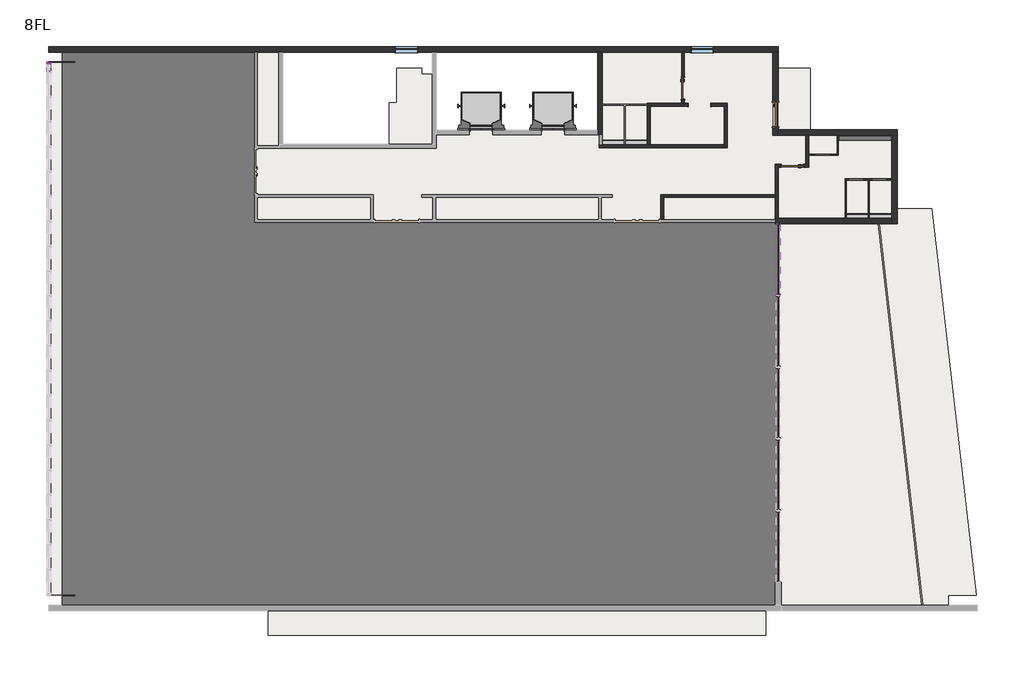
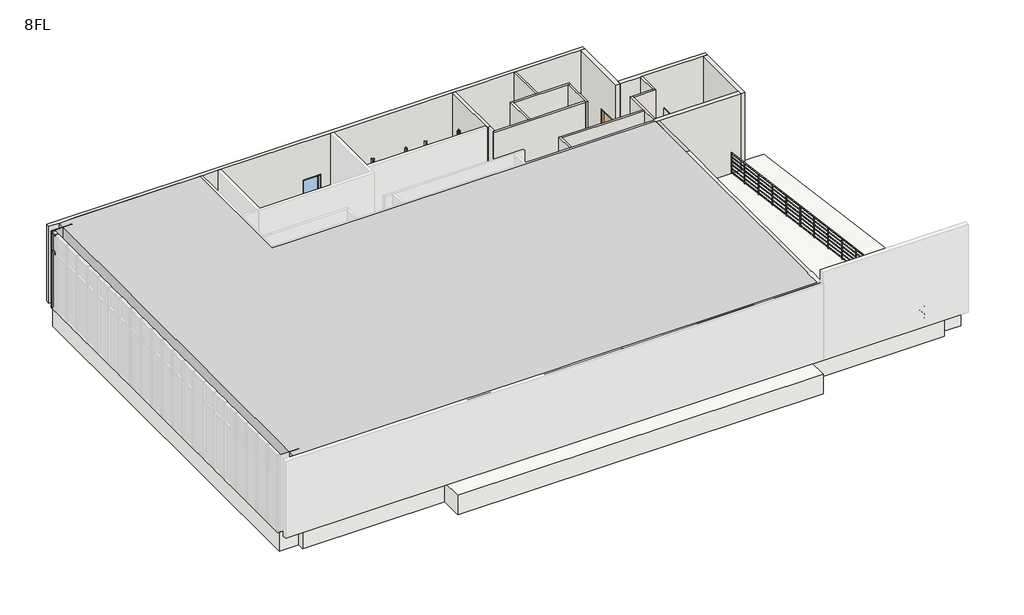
# One storey, part 3 of 3: 21 walls, 9 proxies, 6 members, 4 doors, 4 flow terminals, 3 plates, 2 slabs, 2 windows, 1 railing.
"""IFC4 building model written with IfcOpenShell, lengths in millimetres."""

from ifc_helpers import new_model, si_unit, frame, origin, place, context, project, spatial, polyline, outline, extrude, faceted_brep, transform, mapped, element, save
from components import specialty_equipment_d755c605, d150_h1500_9903e80e, w550_h2000_5054dc5e, w600_h2000_381ad4ff, w800h2000_3f366617, w800h2000_fc627520, w800h2000_d76b1b72, w900h2000_8d150256, flow_terminal_205c4ddb, flow_terminal_b8fa7ae2, member_25x150_64c6ad17, member_25x150_5b56dd58, member_70x150_1b280ac3, member_70x150_76429c73, member_70x150_a15bb337, member_70x150_da24903b, plate_d1366ea1, plate_ab860a3c, plate_c3b39e59, railing_579f45c8, w800_h1100_2b598eca

model = new_model("IFC4")

# Units and contexts
model_context = context("Model", 3, world=origin())
ifc_project = project(units=[si_unit("LENGTHUNIT", "METRE", prefix="MILLI")], contexts=[model_context])

# Site, building, storey
site = spatial("IfcSite", under=ifc_project)
building = spatial("IfcBuilding", under=site)
storey = spatial("IfcBuildingStorey", under=building, Name="8FL", Elevation=28600.0)

# Proxies
placement = place(None, origin())
element("IfcBuildingElementProxy", 1, Name="i_事務所1 : i_事務所1", ObjectType="i_事務所1 : i_事務所1", at=placement, inside=storey, context=model_context, shape_type="SweptSolid", body=[
    extrude(outline(polyline([(-21845.9784025, 16649.6868987), (-21845.9784025, 10449.6868987), (-2945.9784025, 10449.6868987), (-2945.9784025, -3550.3131013), (-28845.9784025, -3550.3131013), (-28845.9784025, 16649.6868987), (-21845.9784025, 16649.6868987)])), frame((0.0, 0.0, 28600.0), z_axis=(0.0, 0.0, 1.0), x_axis=(1.0, 0.0, 0.0)), (0.0, 0.0, 1.0), 4000.0),
])
specialty_equipment_shape = specialty_equipment_d755c605(model_context)
element("IfcBuildingElementProxy", 2, Name="エレベーター : 9人乗", ObjectType="エレベーター : 9人乗", at=placement, inside=storey, context=model_context, shape_type="MappedRepresentation", body=[
    mapped(specialty_equipment_shape, transform((-11220.9784025, 13649.6868987, 28600.0), x_axis=(1.0, 0.0, 0.0), y_axis=(0.0, 1.0, 0.0), z_axis=(0.0, 0.0, 1.0))),
])
element("IfcBuildingElementProxy", 3, Name="エレベーター : 9人乗", ObjectType="エレベーター : 9人乗", at=placement, inside=storey, context=model_context, shape_type="MappedRepresentation", body=[
    mapped(specialty_equipment_shape, transform((-13820.9784025, 13649.6868987, 28600.0), x_axis=(1.0, 0.0, 0.0), y_axis=(0.0, 1.0, 0.0), z_axis=(0.0, 0.0, 1.0))),
])
d150_h1500_shape = d150_h1500_9903e80e(model_context)
element("IfcBuildingElementProxy", 4, Name="r ライニング : D150 H1500", ObjectType="r ライニング : D150 H1500", at=placement, inside=storey, context=model_context, shape_type="MappedRepresentation", body=[
    mapped(d150_h1500_shape, transform((-736.1600971, 13521.6596024, 28600.0), x_axis=(1.0, 0.0, 0.0), y_axis=(0.0, 1.0, 0.0), z_axis=(0.0, 0.0, 1.0))),
])
w550_h2000_shape = w550_h2000_5054dc5e(model_context)
element("IfcBuildingElementProxy", 5, Name="r トイレブース扉 : W550 H2000", ObjectType="r トイレブース扉 : W550 H2000", at=placement, inside=storey, context=model_context, shape_type="MappedRepresentation", body=[
    mapped(w550_h2000_shape, transform((-8823.4784025, 14649.6868987, 28600.0), x_axis=(-1.0, 0.0, 0.0), y_axis=(0.0, -1.0, 0.0), z_axis=(0.0, 0.0, 1.0))),
])
element("IfcBuildingElementProxy", 6, Name="r トイレブース扉 : W550 H2000", ObjectType="r トイレブース扉 : W550 H2000", at=placement, inside=storey, context=model_context, shape_type="MappedRepresentation", body=[
    mapped(w550_h2000_shape, transform((-7940.9784025, 14649.6868987, 28600.0), x_axis=(-1.0, 0.0, 0.0), y_axis=(0.0, -1.0, 0.0), z_axis=(0.0, 0.0, 1.0))),
])
element("IfcBuildingElementProxy", 7, Name="r トイレブース扉 : W550 H2000", ObjectType="r トイレブース扉 : W550 H2000", at=placement, inside=storey, context=model_context, shape_type="MappedRepresentation", body=[
    mapped(w550_h2000_shape, transform((-5.9784025, 11949.6868987, 28600.0), x_axis=(-1.0, 0.0, 0.0), y_axis=(0.0, -1.0, 0.0), z_axis=(0.0, 0.0, 1.0))),
])
element("IfcBuildingElementProxy", 8, Name="r トイレブース扉 : W550 H2000", ObjectType="r トイレブース扉 : W550 H2000", at=placement, inside=storey, context=model_context, shape_type="MappedRepresentation", body=[
    mapped(w550_h2000_shape, transform((834.0215975, 11949.6868987, 28600.0), x_axis=(-1.0, 0.0, 0.0), y_axis=(0.0, -1.0, 0.0), z_axis=(0.0, 0.0, 1.0))),
])
w600_h2000_shape = w600_h2000_381ad4ff(model_context)
element("IfcBuildingElementProxy", 9, Name="r トイレブース扉 : W600 H2000", ObjectType="r トイレブース扉 : W600 H2000", at=placement, inside=storey, context=model_context, shape_type="MappedRepresentation", body=[
    mapped(w600_h2000_shape, transform((-1220.9784025, 12849.6868987, 28600.0), x_axis=(-1.0, 0.0, 0.0), y_axis=(0.0, -1.0, 0.0), z_axis=(0.0, 0.0, 1.0))),
])

# Doors
w800h2000_shape = w800h2000_3f366617(model_context)
element("IfcDoor", 10, ObjectType="片開き戸 : w800h2000", at=placement, inside=storey, context=model_context, shape_type="MappedRepresentation", body=[
    mapped(w800h2000_shape, transform((-2445.9784025, 12449.6868987, 28600.0), x_axis=(-1.0, 0.0, 0.0), y_axis=(0.0, -1.0, 0.0), z_axis=(0.0, 0.0, 1.0))),
])
w800h2000_2_shape = w800h2000_fc627520(model_context)
element("IfcDoor", 11, ObjectType="片開き戸 : w800h2000", at=placement, inside=storey, context=model_context, shape_type="MappedRepresentation", body=[
    mapped(w800h2000_2_shape, transform((-6395.9784025, 15249.6868987, 28600.0), x_axis=(0.0, -1.0, 0.0), y_axis=(1.0, 0.0, 0.0), z_axis=(0.0, 0.0, 1.0))),
])
w800h2000_3_shape = w800h2000_d76b1b72(model_context)
element("IfcDoor", 12, ObjectType="開口枠あり : w800h2000", at=placement, inside=storey, context=model_context, shape_type="MappedRepresentation", body=[
    mapped(w800h2000_3_shape, transform((-5795.9784025, 14649.6868987, 28600.0), x_axis=(-1.0, 0.0, 0.0), y_axis=(0.0, -1.0, 0.0), z_axis=(0.0, 0.0, 1.0))),
])
w900h2000_shape = w900h2000_8d150256(model_context)
element("IfcDoor", 13, ObjectType="片開き戸 : w900h2000", at=placement, inside=storey, context=model_context, shape_type="MappedRepresentation", body=[
    mapped(w900h2000_shape, transform((-3045.9784025, 14299.6868987, 28600.0), x_axis=(0.0, -1.0, 0.0), y_axis=(1.0, 0.0, 0.0), z_axis=(0.0, 0.0, 1.0))),
])

# Flow terminals
flow_terminal_shape = flow_terminal_205c4ddb(model_context)
element("IfcFlowTerminal", 14, ObjectType="洋式便器 - ライニング付 - 2D : タイプ 1", at=placement, inside=storey, context=model_context, shape_type="MappedRepresentation", body=[
    mapped(flow_terminal_shape, transform((-9045.9784025, 13149.6868987, 28600.0), x_axis=(1.0, 0.0, 0.0), y_axis=(0.0, 1.0, 0.0), z_axis=(0.0, 0.0, 1.0))),
])
element("IfcFlowTerminal", 15, ObjectType="洋式便器 - ライニング付 - 2D : タイプ 1", at=placement, inside=storey, context=model_context, shape_type="MappedRepresentation", body=[
    mapped(flow_terminal_shape, transform((-8205.9784025, 13149.6868987, 28600.0), x_axis=(1.0, 0.0, 0.0), y_axis=(0.0, 1.0, 0.0), z_axis=(0.0, 0.0, 1.0))),
])
flow_terminal_2_shape = flow_terminal_b8fa7ae2(model_context)
element("IfcFlowTerminal", 16, ObjectType="洋式便器 - ライニング付 - 2D : タイプ 1", at=placement, inside=storey, context=model_context, shape_type="MappedRepresentation", body=[
    mapped(flow_terminal_2_shape, transform((-210.9784025, 10449.6868987, 28600.0), x_axis=(1.0, 0.0, 0.0), y_axis=(0.0, 1.0, 0.0), z_axis=(0.0, 0.0, 1.0))),
])
element("IfcFlowTerminal", 17, ObjectType="洋式便器 - ライニング付 - 2D : タイプ 1", at=placement, inside=storey, context=model_context, shape_type="MappedRepresentation", body=[
    mapped(flow_terminal_2_shape, transform((629.0215975, 10449.6868987, 28600.0), x_axis=(1.0, 0.0, 0.0), y_axis=(0.0, 1.0, 0.0), z_axis=(0.0, 0.0, 1.0))),
])

# Members
member_25x150_shape = member_25x150_64c6ad17(model_context)
element("IfcMember", 18, ObjectType="長方形のマリオン : 25x150", at=placement, inside=storey, context=model_context, shape_type="MappedRepresentation", body=[
    mapped(member_25x150_shape, transform((-2945.9784025, 10349.6868987, 28600.0), x_axis=(0.0, 1.0, 0.0), y_axis=(1.0, 0.0, 0.0), z_axis=(0.0, 0.0, -1.0))),
])
member_25x150_2_shape = member_25x150_5b56dd58(model_context)
element("IfcMember", 19, ObjectType="長方形のマリオン : 25x150", at=placement, inside=storey, context=model_context, shape_type="MappedRepresentation", body=[
    mapped(member_25x150_2_shape, transform((-2945.9784025, 10349.6868987, 32600.0), x_axis=(0.0, 0.0, 1.0), y_axis=(1.0, 0.0, 0.0), z_axis=(0.0, 1.0, 0.0))),
])
member_70x150_shape = member_70x150_1b280ac3(model_context)
element("IfcMember", 20, ObjectType="長方形のマリオン : 70x150", at=placement, inside=storey, context=model_context, shape_type="MappedRepresentation", body=[
    mapped(member_70x150_shape, transform((-29345.9784025, 16199.6868987, 28600.0), x_axis=(0.0, 1.0, 0.0), y_axis=(1.0, 0.0, 0.0), z_axis=(0.0, 0.0, -1.0))),
])
member_70x150_2_shape = member_70x150_76429c73(model_context)
element("IfcMember", 21, ObjectType="長方形のマリオン : 70x150", at=placement, inside=storey, context=model_context, shape_type="MappedRepresentation", body=[
    mapped(member_70x150_2_shape, transform((-29345.9784025, 16199.6868987, 31600.0), x_axis=(0.0, 1.0, 0.0), y_axis=(1.0, 0.0, 0.0), z_axis=(0.0, 0.0, -1.0))),
])
member_70x150_3_shape = member_70x150_a15bb337(model_context)
element("IfcMember", 22, ObjectType="長方形のマリオン : 70x150", at=placement, inside=storey, context=model_context, shape_type="MappedRepresentation", body=[
    mapped(member_70x150_3_shape, transform((-29345.9784025, 16129.6868987, 32600.0), x_axis=(0.0, 0.0, 1.0), y_axis=(1.0, 0.0, 0.0), z_axis=(0.0, 1.0, 0.0))),
])
member_70x150_4_shape = member_70x150_da24903b(model_context)
element("IfcMember", 23, ObjectType="長方形のマリオン : 70x150", at=placement, inside=storey, context=model_context, shape_type="MappedRepresentation", body=[
    mapped(member_70x150_4_shape, transform((-29345.9784025, 16129.6868987, 31600.0), x_axis=(0.0, 0.0, 1.0), y_axis=(1.0, 0.0, 0.0), z_axis=(0.0, 1.0, 0.0))),
])

# Plates
plate_shape = plate_d1366ea1(model_context)
element("IfcPlate", 24, ObjectType="システム パネル : 標準", at=placement, inside=storey, context=model_context, shape_type="MappedRepresentation", body=[
    mapped(plate_shape, transform((-28895.9784025, 16199.6868987, 28600.0), x_axis=(1.0, 0.0, 0.0), y_axis=(0.0, 1.0, 0.0), z_axis=(0.0, 0.0, 1.0))),
])
plate_2_shape = plate_ab860a3c(model_context)
element("IfcPlate", 25, ObjectType="システム パネル : 標準", at=placement, inside=storey, context=model_context, shape_type="MappedRepresentation", body=[
    mapped(plate_2_shape, transform((-28420.9784025, 16199.6868987, 28600.0), x_axis=(1.0, 0.0, 0.0), y_axis=(0.0, 1.0, 0.0), z_axis=(0.0, 0.0, 1.0))),
])
plate_3_shape = plate_c3b39e59(model_context)
element("IfcPlate", 26, ObjectType="r パネル FIX 下框付 : 框 H100", at=placement, inside=storey, context=model_context, shape_type="MappedRepresentation", body=[
    mapped(plate_3_shape, transform((-2945.9784025, 9057.1868987, 28600.0), x_axis=(0.0, 1.0, 0.0), y_axis=(-1.0, 0.0, 0.0), z_axis=(0.0, 0.0, 1.0))),
])

# Railing
railing_shape = railing_579f45c8(model_context)
element("IfcRailing", 27, ObjectType="r パイプ H1100", at=placement, inside=storey, context=model_context, shape_type="MappedRepresentation", body=[
    mapped(railing_shape, transform((0.0, 0.0, 0.0), x_axis=(1.0, 0.0, 0.0), y_axis=(0.0, 1.0, 0.0), z_axis=(0.0, 0.0, 1.0))),
])

# Slabs
element("IfcSlab", 28, ObjectType="企画1000", at=placement, inside=storey, context=model_context, shape_type="SweptSolid", body=[
    extrude(outline(polyline([(-20870.9784025, 16549.6868987), (-20870.9784025, 13224.6868987), (-17020.9784025, 13224.6868987), (-17020.9784025, 14724.6868987), (-16745.9784025, 14724.6868987), (-16745.9784025, 15974.6868987), (-15845.9784025, 15974.6868987), (-15845.9784025, 15749.6868987), (-15470.9784025, 15749.6868987), (-15470.9784025, 13724.6868987), (-9470.9784025, 13724.6868987), (-9470.9784025, 16549.6868987), (-3145.9784025, 16549.6868987), (-3145.9784025, 13549.6868987), (1154.0215975, 13549.6868987), (1154.0215975, 10899.6868987), (2610.5310234, 10899.6868987), (4210.5310234, -3100.3131013), (3204.0215975, -3100.3131013), (3204.0215975, -3450.3131013), (-3395.9784025, -3450.3131013), (-3395.9784025, -4545.3131013), (-21395.9784025, -4545.3131013), (-21395.9784025, -3450.3131013), (-28395.9784025, -3450.3131013), (-28395.9784025, -3100.3131013), (-29345.9784025, -3100.3131013), (-29345.9784025, 16199.6868987), (-28395.9784025, 16199.6868987), (-28395.9784025, 16549.6868987), (-20870.9784025, 16549.6868987)])), frame((0.0, 0.0, 27600.0), z_axis=(0.0, 0.0, 1.0), x_axis=(1.0, 0.0, 0.0)), (0.0, 0.0, 1.0), 1000.0),
])
element("IfcSlab", 29, ObjectType="RC150", at=placement, inside=storey, context=model_context, shape_type="SweptSolid", body=[
    extrude(outline(polyline([(-1795.9784025, 13749.6868987), (-2945.9784025, 13749.6868987), (-2945.9784025, 15979.6868987), (-1795.9784025, 15979.6868987), (-1795.9784025, 13749.6868987)])), frame((0.0, 0.0, 28450.0), z_axis=(0.0, 0.0, 1.0), x_axis=(1.0, 0.0, 0.0)), (0.0, 0.0, 1.0), 150.0),
])

# Walls
element("IfcWall", 30, ObjectType="標準200", at=placement, inside=storey, context=model_context, shape_type="Brep", body=[
    faceted_brep([(-29345.9784025, 16549.6868987, 28600.0), (-21895.9784025, 16549.6868987, 28600.0), (-21795.9784025, 16549.6868987, 28600.0), (-21020.9784025, 16549.6868987, 28600.0), (-20870.9784025, 16549.6868987, 28600.0), (-15470.9784025, 16549.6868987, 28600.0), (-15320.9784025, 16549.6868987, 28600.0), (-9470.9784025, 16549.6868987, 28600.0), (-9320.9784025, 16549.6868987, 28600.0), (-6445.9784025, 16549.6868987, 28600.0), (-6345.9784025, 16549.6868987, 28600.0), (-3145.9784025, 16549.6868987, 28600.0), (-2945.9784025, 16549.6868987, 28600.0), (-2945.9784025, 16549.6868987, 32600.0), (-3145.9784025, 16549.6868987, 32600.0), (-3845.9784025, 16549.6868987, 32600.0), (-6345.9784025, 16549.6868987, 32600.0), (-6445.9784025, 16549.6868987, 32600.0), (-8945.9784025, 16549.6868987, 32600.0), (-9320.9784025, 16549.6868987, 32600.0), (-9470.9784025, 16549.6868987, 32600.0), (-9845.9784025, 16549.6868987, 32600.0), (-14945.9784025, 16549.6868987, 32600.0), (-15320.9784025, 16549.6868987, 32600.0), (-15470.9784025, 16549.6868987, 32600.0), (-15845.9784025, 16549.6868987, 32600.0), (-20870.9784025, 16549.6868987, 32600.0), (-21020.9784025, 16549.6868987, 32600.0), (-21795.9784025, 16549.6868987, 32600.0), (-21895.9784025, 16549.6868987, 32600.0), (-27945.9784025, 16549.6868987, 32600.0), (-28845.9784025, 16549.6868987, 32600.0), (-29345.9784025, 16549.6868987, 32600.0), (-6120.9784025, 16549.6868987, 30625.0), (-5270.9784025, 16549.6868987, 30625.0), (-5270.9784025, 16549.6868987, 29475.0), (-6120.9784025, 16549.6868987, 29475.0), (-16820.9784025, 16549.6868987, 30625.0), (-15970.9784025, 16549.6868987, 30625.0), (-15970.9784025, 16549.6868987, 29475.0), (-16820.9784025, 16549.6868987, 29475.0), (-29345.9784025, 16749.6868987, 28600.0), (-29345.9784025, 16749.6868987, 32600.0), (-2945.9784025, 16749.6868987, 32600.0), (-2945.9784025, 16749.6868987, 28600.0), (-6120.9784025, 16749.6868987, 30625.0), (-6120.9784025, 16749.6868987, 29475.0), (-5270.9784025, 16749.6868987, 29475.0), (-5270.9784025, 16749.6868987, 30625.0), (-16820.9784025, 16749.6868987, 30625.0), (-16820.9784025, 16749.6868987, 29475.0), (-15970.9784025, 16749.6868987, 29475.0), (-15970.9784025, 16749.6868987, 30625.0)], [[[0, 1, 2, 3, 4, 5, 6, 7, 8, 9, 10, 11, 12, 13, 14, 15, 16, 17, 18, 19, 20, 21, 22, 23, 24, 25, 26, 27, 28, 29, 30, 31, 32], [33, 34, 35, 36], [37, 38, 39, 40]], [[41, 42, 43, 44], [45, 46, 47, 48], [49, 50, 51, 52]], [[12, 11, 10, 9, 8, 7, 6, 5, 4, 3, 2, 1, 0, 41, 44]], [[32, 31, 30, 29, 28, 27, 26, 25, 24, 23, 22, 21, 20, 19, 18, 17, 16, 15, 14, 13, 43, 42]], [[0, 32, 42, 41]], [[13, 12, 44, 43]], [[46, 45, 33, 36]], [[47, 46, 36, 35]], [[48, 47, 35, 34]], [[45, 48, 34, 33]], [[50, 49, 37, 40]], [[51, 50, 40, 39]], [[52, 51, 39, 38]], [[49, 52, 38, 37]]]),
])
element("IfcWall", 31, ObjectType="標準200", at=placement, inside=storey, context=model_context, shape_type="Brep", body=[
    faceted_brep([(-3145.9784025, 16549.6868987, 28600.0), (-3145.9784025, 14774.6868987, 28600.0), (-3145.9784025, 14774.6868987, 30625.0), (-3145.9784025, 13824.6868987, 30625.0), (-3145.9784025, 13824.6868987, 28600.0), (-3145.9784025, 13549.6868987, 28600.0), (-3145.9784025, 13549.6868987, 32600.0), (-3145.9784025, 15749.6868987, 32600.0), (-3145.9784025, 16549.6868987, 32600.0), (-2945.9784025, 14774.6868987, 30625.0), (-2945.9784025, 14774.6868987, 28600.0), (-2945.9784025, 16549.6868987, 28600.0), (-2945.9784025, 16549.6868987, 32600.0), (-2945.9784025, 13749.6868987, 32600.0), (-2945.9784025, 13549.6868987, 32600.0), (-2945.9784025, 13549.6868987, 28600.0), (-2945.9784025, 13749.6868987, 28600.0), (-2945.9784025, 13824.6868987, 28600.0), (-2945.9784025, 13824.6868987, 30625.0)], [[[0, 1, 2, 3, 4, 5, 6, 7, 8]], [[9, 10, 11, 12, 13, 14, 15, 16, 17, 18]], [[11, 10, 1, 0]], [[17, 16, 15, 5, 4]], [[8, 7, 6, 14, 13, 12]], [[0, 8, 12, 11]], [[6, 5, 15, 14]], [[4, 3, 18, 17]], [[2, 1, 10, 9]], [[3, 2, 9, 18]]]),
])
element("IfcWall", 32, ObjectType="標準200", at=placement, inside=storey, context=model_context, shape_type="Brep", body=[
    faceted_brep([(-2945.9784025, 13549.6868987, 28600.0), (-1945.9784025, 13549.6868987, 28600.0), (-1845.9784025, 13549.6868987, 28600.0), (-815.9784025, 13549.6868987, 28600.0), (-775.9784025, 13549.6868987, 28600.0), (1154.0215975, 13549.6868987, 28600.0), (1354.0215975, 13549.6868987, 28600.0), (1354.0215975, 13549.6868987, 32600.0), (1154.0215975, 13549.6868987, 32600.0), (-1845.9784025, 13549.6868987, 32600.0), (-1945.9784025, 13549.6868987, 32600.0), (-2945.9784025, 13549.6868987, 32600.0), (-2945.9784025, 13749.6868987, 28600.0), (-2945.9784025, 13749.6868987, 32600.0), (1354.0215975, 13749.6868987, 32600.0), (1354.0215975, 13749.6868987, 28600.0)], [[[0, 1, 2, 3, 4, 5, 6, 7, 8, 9, 10, 11]], [[12, 13, 14, 15]], [[6, 5, 4, 3, 2, 1, 0, 12, 15]], [[11, 10, 9, 8, 7, 14, 13]], [[0, 11, 13, 12]], [[7, 6, 15, 14]]]),
])
element("IfcWall", 33, ObjectType="標準200", at=placement, inside=storey, context=model_context, shape_type="Brep", body=[
    faceted_brep([(1154.0215975, 13549.6868987, 28600.0), (1154.0215975, 11969.6868987, 28600.0), (1154.0215975, 11929.6868987, 28600.0), (1154.0215975, 10549.6868987, 28600.0), (1154.0215975, 10349.6868987, 28600.0), (1154.0215975, 10349.6868987, 32600.0), (1154.0215975, 10549.6868987, 32600.0), (1154.0215975, 13549.6868987, 32600.0), (1354.0215975, 13549.6868987, 28600.0), (1354.0215975, 13549.6868987, 32600.0), (1354.0215975, 10349.6868987, 32600.0), (1354.0215975, 10349.6868987, 28600.0)], [[[0, 1, 2, 3, 4, 5, 6, 7]], [[8, 9, 10, 11]], [[4, 3, 2, 1, 0, 8, 11]], [[7, 6, 5, 10, 9]], [[0, 7, 9, 8]], [[5, 4, 11, 10]]]),
])
element("IfcWall", 34, ObjectType="標準150", at=placement, inside=storey, context=model_context, shape_type="Brep", body=[
    faceted_brep([(-9470.9784025, 16549.6868987, 28600.0), (-9470.9784025, 13724.6868987, 28600.0), (-9470.9784025, 13574.6868987, 28600.0), (-9470.9784025, 13574.6868987, 32600.0), (-9470.9784025, 13724.6868987, 32600.0), (-9470.9784025, 15749.6868987, 32600.0), (-9470.9784025, 16549.6868987, 32600.0), (-9320.9784025, 16549.6868987, 28600.0), (-9320.9784025, 16549.6868987, 32600.0), (-9320.9784025, 15749.6868987, 32600.0), (-9320.9784025, 13574.6868987, 32600.0), (-9320.9784025, 13574.6868987, 28600.0), (-9320.9784025, 14629.6868987, 28600.0), (-9320.9784025, 14669.6868987, 28600.0), (-9420.9784025, 13574.6868987, 28600.0), (-9420.9784025, 13574.6868987, 32600.0)], [[[0, 1, 2, 3, 4, 5, 6]], [[7, 8, 9, 10, 11, 12, 13]], [[2, 1, 0, 7, 13, 12, 11, 14]], [[6, 5, 4, 3, 15, 10, 9, 8]], [[0, 6, 8, 7]], [[3, 2, 14, 11, 10, 15]]]),
])
element("IfcWall", 35, ObjectType="標準200", at=placement, inside=storey, context=model_context, shape_type="Brep", body=[
    faceted_brep([(1154.0215975, 10549.6868987, 28600.0), (354.0215975, 10549.6868987, 28600.0), (314.0215975, 10549.6868987, 28600.0), (-485.9784025, 10549.6868987, 28600.0), (-525.9784025, 10549.6868987, 28600.0), (-2945.9784025, 10549.6868987, 28600.0), (-3045.9784025, 10549.6868987, 28600.0), (-3045.9784025, 10549.6868987, 32600.0), (-2945.9784025, 10549.6868987, 32600.0), (1154.0215975, 10549.6868987, 32600.0), (1154.0215975, 10349.6868987, 28600.0), (1154.0215975, 10349.6868987, 32600.0), (-3045.9784025, 10349.6868987, 32600.0), (-3045.9784025, 10349.6868987, 28600.0), (-3045.9784025, 10399.6868987, 28600.0), (-3045.9784025, 10499.6868987, 28600.0), (-3045.9784025, 10499.6868987, 32600.0), (-3045.9784025, 10399.6868987, 32600.0)], [[[0, 1, 2, 3, 4, 5, 6, 7, 8, 9]], [[10, 11, 12, 13]], [[6, 5, 4, 3, 2, 1, 0, 10, 13, 14, 15]], [[9, 8, 7, 16, 17, 12, 11]], [[0, 9, 11, 10]], [[7, 6, 15, 14, 13, 12, 17, 16]]]),
])
element("IfcWall", 36, ObjectType="標準100", at=placement, inside=storey, context=model_context, shape_type="Brep", body=[
    faceted_brep([(-2945.9784025, 10549.6868987, 28600.0), (-2945.9784025, 12399.6868987, 28600.0), (-2945.9784025, 12499.6868987, 28600.0), (-2945.9784025, 12499.6868987, 32600.0), (-2945.9784025, 12399.6868987, 32600.0), (-2945.9784025, 10549.6868987, 32600.0), (-3045.9784025, 10549.6868987, 28600.0), (-3045.9784025, 10549.6868987, 32600.0), (-3045.9784025, 11299.6868987, 32600.0), (-3045.9784025, 11399.6868987, 32600.0), (-3045.9784025, 12499.6868987, 32600.0), (-3045.9784025, 12499.6868987, 28600.0), (-3045.9784025, 11399.6868987, 28600.0), (-3045.9784025, 11299.6868987, 28600.0)], [[[0, 1, 2, 3, 4, 5]], [[6, 7, 8, 9, 10, 11, 12, 13]], [[2, 1, 0, 6, 13, 12, 11]], [[5, 4, 3, 10, 9, 8, 7]], [[3, 2, 11, 10]], [[0, 5, 7, 6]]]),
])
element("IfcWall", 37, ObjectType="標準100", at=placement, inside=storey, context=model_context, shape_type="Brep", body=[
    faceted_brep([(-7095.9784025, 10499.6868987, 28600.0), (-7095.9784025, 11299.6868987, 28600.0), (-7095.9784025, 11399.6868987, 28600.0), (-7095.9784025, 11399.6868987, 32600.0), (-7095.9784025, 11299.6868987, 32600.0), (-7095.9784025, 10499.6868987, 32600.0), (-7195.9784025, 10499.6868987, 28600.0), (-7195.9784025, 10499.6868987, 32600.0), (-7195.9784025, 11399.6868987, 32600.0), (-7195.9784025, 11399.6868987, 28600.0)], [[[0, 1, 2, 3, 4, 5]], [[6, 7, 8, 9]], [[2, 1, 0, 6, 9]], [[5, 4, 3, 8, 7]], [[0, 5, 7, 6]], [[3, 2, 9, 8]]]),
])
element("IfcWall", 38, ObjectType="標準100", at=placement, inside=storey, context=model_context, shape_type="Brep", body=[
    faceted_brep([(-7095.9784025, 11299.6868987, 28600.0), (-3045.9784025, 11299.6868987, 28600.0), (-3045.9784025, 11299.6868987, 32600.0), (-3845.9784025, 11299.6868987, 32600.0), (-7095.9784025, 11299.6868987, 32600.0), (-7095.9784025, 11399.6868987, 28600.0), (-7095.9784025, 11399.6868987, 32600.0), (-3045.9784025, 11399.6868987, 32600.0), (-3045.9784025, 11399.6868987, 28600.0)], [[[0, 1, 2, 3, 4]], [[5, 6, 7, 8]], [[1, 0, 5, 8]], [[4, 3, 2, 7, 6]], [[0, 4, 6, 5]], [[2, 1, 8, 7]]]),
])
element("IfcWall", 39, ObjectType="標準100", at=placement, inside=storey, context=model_context, shape_type="SweptSolid", body=[
    extrude(outline(polyline([(16549.6868987, 28600.0), (15674.6868987, 28600.0), (15674.6868987, 30625.0), (14824.6868987, 30625.0), (14824.6868987, 28600.0), (14699.6868987, 28600.0), (14699.6868987, 32600.0), (16549.6868987, 32600.0), (16549.6868987, 28600.0)])), frame((-6445.9784025, 0.0, 0.0), z_axis=(1.0, 0.0, 0.0), x_axis=(0.0, 1.0, 0.0)), (0.0, 0.0, 1.0), 100.0),
])
element("IfcWall", 40, ObjectType="標準100", at=placement, inside=storey, context=model_context, shape_type="Brep", body=[
    faceted_brep([(-4895.9784025, 13199.6868987, 28600.0), (-7580.9784025, 13199.6868987, 28600.0), (-7680.9784025, 13199.6868987, 28600.0), (-8480.9784025, 13199.6868987, 28600.0), (-8520.9784025, 13199.6868987, 28600.0), (-9320.9784025, 13199.6868987, 28600.0), (-9420.9784025, 13199.6868987, 28600.0), (-9420.9784025, 13199.6868987, 32600.0), (-9320.9784025, 13199.6868987, 32600.0), (-7680.9784025, 13199.6868987, 32600.0), (-7580.9784025, 13199.6868987, 32600.0), (-4895.9784025, 13199.6868987, 32600.0), (-4895.9784025, 13099.6868987, 28600.0), (-4895.9784025, 13099.6868987, 32600.0), (-9420.9784025, 13099.6868987, 32600.0), (-9420.9784025, 13099.6868987, 28600.0)], [[[0, 1, 2, 3, 4, 5, 6, 7, 8, 9, 10, 11]], [[12, 13, 14, 15]], [[6, 5, 4, 3, 2, 1, 0, 12, 15]], [[11, 10, 9, 8, 7, 14, 13]], [[0, 11, 13, 12]], [[7, 6, 15, 14]]]),
])
element("IfcWall", 41, ObjectType="標準100", at=placement, inside=storey, context=model_context, shape_type="Brep", body=[
    faceted_brep([(-7580.9784025, 13199.6868987, 28600.0), (-7580.9784025, 14599.6868987, 28600.0), (-7580.9784025, 14699.6868987, 28600.0), (-7580.9784025, 14699.6868987, 32600.0), (-7580.9784025, 14599.6868987, 32600.0), (-7580.9784025, 13199.6868987, 32600.0), (-7680.9784025, 13199.6868987, 28600.0), (-7680.9784025, 13199.6868987, 32600.0), (-7680.9784025, 14699.6868987, 32600.0), (-7680.9784025, 14699.6868987, 28600.0), (-7680.9784025, 14669.6868987, 28600.0), (-7680.9784025, 14629.6868987, 28600.0)], [[[0, 1, 2, 3, 4, 5]], [[6, 7, 8, 9, 10, 11]], [[2, 1, 0, 6, 11, 10, 9]], [[5, 4, 3, 8, 7]], [[0, 5, 7, 6]], [[3, 2, 9, 8]]]),
])
element("IfcWall", 42, ObjectType="標準100", at=placement, inside=storey, context=model_context, shape_type="Brep", body=[
    faceted_brep([(-5370.9784025, 14599.6868987, 30625.0), (-5370.9784025, 14599.6868987, 28600.0), (-4895.9784025, 14599.6868987, 28600.0), (-4795.9784025, 14599.6868987, 28600.0), (-4795.9784025, 14599.6868987, 32600.0), (-4895.9784025, 14599.6868987, 32600.0), (-7580.9784025, 14599.6868987, 32600.0), (-7580.9784025, 14599.6868987, 28600.0), (-6220.9784025, 14599.6868987, 28600.0), (-6220.9784025, 14599.6868987, 30625.0), (-4795.9784025, 14699.6868987, 28600.0), (-5370.9784025, 14699.6868987, 28600.0), (-5370.9784025, 14699.6868987, 30625.0), (-6220.9784025, 14699.6868987, 30625.0), (-6220.9784025, 14699.6868987, 28600.0), (-6345.9784025, 14699.6868987, 28600.0), (-6445.9784025, 14699.6868987, 28600.0), (-7580.9784025, 14699.6868987, 28600.0), (-7580.9784025, 14699.6868987, 32600.0), (-6445.9784025, 14699.6868987, 32600.0), (-6345.9784025, 14699.6868987, 32600.0), (-4795.9784025, 14699.6868987, 32600.0)], [[[0, 1, 2, 3, 4, 5, 6, 7, 8, 9]], [[10, 11, 12, 13, 14, 15, 16, 17, 18, 19, 20, 21]], [[8, 7, 17, 16, 15, 14]], [[3, 2, 1, 11, 10]], [[6, 5, 4, 21, 20, 19, 18]], [[4, 3, 10, 21]], [[14, 13, 9, 8]], [[12, 11, 1, 0]], [[13, 12, 0, 9]], [[6, 18, 17, 7]]]),
])
element("IfcWall", 43, ObjectType="標準100", at=placement, inside=storey, context=model_context, shape_type="Brep", body=[
    faceted_brep([(-4895.9784025, 14599.6868987, 28600.0), (-4895.9784025, 13199.6868987, 28600.0), (-4895.9784025, 13099.6868987, 28600.0), (-4895.9784025, 13099.6868987, 32600.0), (-4895.9784025, 13199.6868987, 32600.0), (-4895.9784025, 14599.6868987, 32600.0), (-4795.9784025, 14599.6868987, 28600.0), (-4795.9784025, 14599.6868987, 32600.0), (-4795.9784025, 13099.6868987, 32600.0), (-4795.9784025, 13099.6868987, 28600.0)], [[[0, 1, 2, 3, 4, 5]], [[6, 7, 8, 9]], [[2, 1, 0, 6, 9]], [[5, 4, 3, 8, 7]], [[3, 2, 9, 8]], [[0, 5, 7, 6]]]),
])
element("IfcWall", 44, ObjectType="標準100", at=placement, inside=storey, context=model_context, shape_type="Brep", body=[
    faceted_brep([(-2020.9784025, 12399.6868987, 30625.0), (-2020.9784025, 12399.6868987, 28600.0), (-1845.9784025, 12399.6868987, 28600.0), (-1845.9784025, 12399.6868987, 32600.0), (-2945.9784025, 12399.6868987, 32600.0), (-2945.9784025, 12399.6868987, 28600.0), (-2870.9784025, 12399.6868987, 28600.0), (-2870.9784025, 12399.6868987, 30625.0), (-1845.9784025, 12499.6868987, 28600.0), (-1945.9784025, 12499.6868987, 28600.0), (-2020.9784025, 12499.6868987, 28600.0), (-2020.9784025, 12499.6868987, 30625.0), (-2870.9784025, 12499.6868987, 30625.0), (-2870.9784025, 12499.6868987, 28600.0), (-2945.9784025, 12499.6868987, 28600.0), (-2945.9784025, 12499.6868987, 32600.0), (-1945.9784025, 12499.6868987, 32600.0), (-1845.9784025, 12499.6868987, 32600.0)], [[[0, 1, 2, 3, 4, 5, 6, 7]], [[8, 9, 10, 11, 12, 13, 14, 15, 16, 17]], [[6, 5, 14, 13]], [[2, 1, 10, 9, 8]], [[4, 3, 17, 16, 15]], [[3, 2, 8, 17]], [[5, 4, 15, 14]], [[13, 12, 7, 6]], [[11, 10, 1, 0]], [[12, 11, 0, 7]]]),
])
element("IfcWall", 45, ObjectType="標準100", at=placement, inside=storey, context=model_context, shape_type="Brep", body=[
    faceted_brep([(-1845.9784025, 12499.6868987, 28600.0), (-1845.9784025, 12829.6868987, 28600.0), (-1845.9784025, 12869.6868987, 28600.0), (-1845.9784025, 13549.6868987, 28600.0), (-1845.9784025, 13549.6868987, 32600.0), (-1845.9784025, 12499.6868987, 32600.0), (-1945.9784025, 12499.6868987, 28600.0), (-1945.9784025, 12499.6868987, 32600.0), (-1945.9784025, 13549.6868987, 32600.0), (-1945.9784025, 13549.6868987, 28600.0)], [[[0, 1, 2, 3, 4, 5]], [[6, 7, 8, 9]], [[3, 2, 1, 0, 6, 9]], [[5, 4, 8, 7]], [[0, 5, 7, 6]], [[4, 3, 9, 8]]]),
])
element("IfcWall", 46, ObjectType="トイレブース 40", at=placement, inside=storey, context=model_context, shape_type="Brep", body=[
    faceted_brep([(-485.9784025, 10549.6868987, 28600.0), (-485.9784025, 11929.6868987, 28600.0), (-485.9784025, 11969.6868987, 28600.0), (-485.9784025, 11969.6868987, 30600.0), (-485.9784025, 11929.6868987, 30600.0), (-485.9784025, 10549.6868987, 30600.0), (-525.9784025, 10549.6868987, 28600.0), (-525.9784025, 10549.6868987, 30600.0), (-525.9784025, 11969.6868987, 30600.0), (-525.9784025, 11969.6868987, 28600.0)], [[[0, 1, 2, 3, 4, 5]], [[6, 7, 8, 9]], [[2, 1, 0, 6, 9]], [[5, 4, 3, 8, 7]], [[0, 5, 7, 6]], [[3, 2, 9, 8]]]),
])
element("IfcWall", 47, ObjectType="トイレブース 40", at=placement, inside=storey, context=model_context, shape_type="Brep", body=[
    faceted_brep([(-485.9784025, 11929.6868987, 30600.0), (-485.9784025, 11929.6868987, 28600.0), (-405.9784025, 11929.6868987, 28600.0), (-405.9784025, 11929.6868987, 30600.0), (-485.9784025, 11969.6868987, 28600.0), (-485.9784025, 11969.6868987, 30600.0), (-405.9784025, 11969.6868987, 30600.0), (-405.9784025, 11969.6868987, 28600.0)], [[[0, 1, 2, 3]], [[4, 5, 6, 7]], [[1, 4, 7, 2]], [[5, 0, 3, 6]], [[1, 0, 5, 4]], [[3, 2, 7, 6]]]),
    faceted_brep([(1154.0215975, 11929.6868987, 28600.0), (1154.0215975, 11929.6868987, 30600.0), (984.0215975, 11929.6868987, 30600.0), (984.0215975, 11929.6868987, 28600.0), (1154.0215975, 11969.6868987, 30600.0), (1154.0215975, 11969.6868987, 28600.0), (984.0215975, 11969.6868987, 28600.0), (984.0215975, 11969.6868987, 30600.0)], [[[0, 1, 2, 3]], [[4, 5, 6, 7]], [[5, 0, 3, 6]], [[1, 4, 7, 2]], [[1, 0, 5, 4]], [[3, 2, 7, 6]]]),
    faceted_brep([(144.0215975, 11929.6868987, 30600.0), (144.0215975, 11929.6868987, 28600.0), (314.0215975, 11929.6868987, 28600.0), (354.0215975, 11929.6868987, 28600.0), (434.0215975, 11929.6868987, 28600.0), (434.0215975, 11929.6868987, 30600.0), (354.0215975, 11929.6868987, 30600.0), (314.0215975, 11929.6868987, 30600.0), (144.0215975, 11969.6868987, 28600.0), (144.0215975, 11969.6868987, 30600.0), (434.0215975, 11969.6868987, 30600.0), (434.0215975, 11969.6868987, 28600.0)], [[[0, 1, 2, 3, 4, 5, 6, 7]], [[8, 9, 10, 11]], [[1, 8, 11, 4, 3, 2]], [[9, 0, 7, 6, 5, 10]], [[1, 0, 9, 8]], [[5, 4, 11, 10]]]),
])
element("IfcWall", 48, ObjectType="トイレブース 40", at=placement, inside=storey, context=model_context, shape_type="SweptSolid", body=[
    extrude(outline(polyline([(354.0215975, 11929.6868987), (354.0215975, 10549.6868987), (314.0215975, 10549.6868987), (314.0215975, 11929.6868987), (354.0215975, 11929.6868987)])), frame((0.0, 0.0, 28600.0), z_axis=(0.0, 0.0, 1.0), x_axis=(1.0, 0.0, 0.0)), (0.0, 0.0, 1.0), 2000.0),
])
element("IfcWall", 49, ObjectType="トイレブース 40", at=placement, inside=storey, context=model_context, shape_type="Brep", body=[
    faceted_brep([(-1845.9784025, 12829.6868987, 30600.0), (-1845.9784025, 12829.6868987, 28600.0), (-1645.9784025, 12829.6868987, 28600.0), (-1645.9784025, 12829.6868987, 30600.0), (-1845.9784025, 12869.6868987, 28600.0), (-1845.9784025, 12869.6868987, 30600.0), (-1645.9784025, 12869.6868987, 30600.0), (-1645.9784025, 12869.6868987, 28600.0)], [[[0, 1, 2, 3]], [[4, 5, 6, 7]], [[1, 4, 7, 2]], [[5, 0, 3, 6]], [[1, 0, 5, 4]], [[3, 2, 7, 6]]]),
    faceted_brep([(-775.9784025, 12829.6868987, 28600.0), (-775.9784025, 12829.6868987, 30600.0), (-1045.9784025, 12829.6868987, 30600.0), (-1045.9784025, 12829.6868987, 28600.0), (-775.9784025, 12869.6868987, 30600.0), (-775.9784025, 12869.6868987, 28600.0), (-815.9784025, 12869.6868987, 28600.0), (-1045.9784025, 12869.6868987, 28600.0), (-1045.9784025, 12869.6868987, 30600.0), (-815.9784025, 12869.6868987, 30600.0)], [[[0, 1, 2, 3]], [[4, 5, 6, 7, 8, 9]], [[5, 0, 3, 7, 6]], [[1, 4, 9, 8, 2]], [[1, 0, 5, 4]], [[3, 2, 8, 7]]]),
])
element("IfcWall", 50, ObjectType="トイレブース 40", at=placement, inside=storey, context=model_context, shape_type="SweptSolid", body=[
    extrude(outline(polyline([(-775.9784025, 13549.6868987), (-775.9784025, 12869.6868987), (-815.9784025, 12869.6868987), (-815.9784025, 13549.6868987), (-775.9784025, 13549.6868987)])), frame((0.0, 0.0, 28600.0), z_axis=(0.0, 0.0, 1.0), x_axis=(1.0, 0.0, 0.0)), (0.0, 0.0, 1.0), 2000.0),
])

# Windows
w800_h1100_shape = w800_h1100_2b598eca(model_context)
element("IfcWindow", 51, ObjectType="すべり出し窓 : W800 H1100", at=placement, inside=storey, context=model_context, shape_type="MappedRepresentation", body=[
    mapped(w800_h1100_shape, transform((-16320.9784025, 16649.6868987, 28600.0), x_axis=(-1.0, 0.0, 0.0), y_axis=(0.0, -1.0, 0.0), z_axis=(0.0, 0.0, 1.0))),
])
element("IfcWindow", 52, ObjectType="すべり出し窓 : W800 H1100", at=placement, inside=storey, context=model_context, shape_type="MappedRepresentation", body=[
    mapped(w800_h1100_shape, transform((-5620.9784025, 16649.6868987, 28600.0), x_axis=(-1.0, 0.0, 0.0), y_axis=(0.0, -1.0, 0.0), z_axis=(0.0, 0.0, 1.0))),
])

save(model, "model.ifc")
